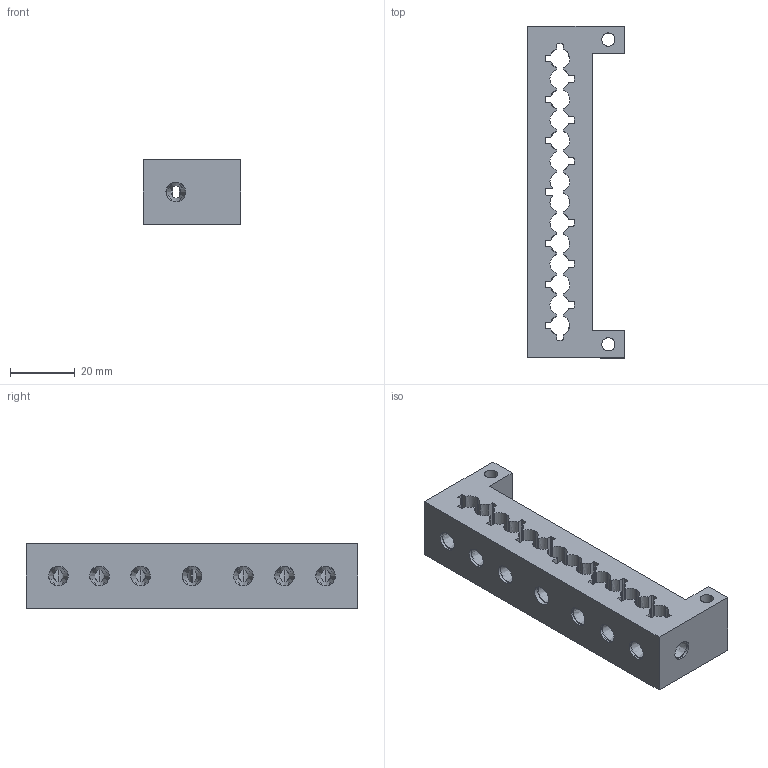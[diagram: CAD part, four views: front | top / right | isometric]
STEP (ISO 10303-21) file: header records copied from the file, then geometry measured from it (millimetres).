
FILE_DESCRIPTION ((), '1');
FILE_NAME ('C:\Users\tprototype\Desktop\TeslaGen Project\TeslaGen-v1 CAD Package\CNC Parts\Spark Gap\Insulator Block\Insulator_Block.stp', '2016-11-22T18:03:06', ('Unknown'), ('Unknown'), 'HarmonyWare STEP v1.7.11', 'HarmonyWare Translators', '');
FILE_SCHEMA (('CONFIG_CONTROL_DESIGN'));
Length unit declared in the file: millimetre
Products named in the file (1): product-name
Bounding box: 30 x 102.55 x 20 mm (x, y, z)
Volume: 32732.4 mm3; surface area: 16012.3 mm2
Topology: 1 solids, 1 shells, 334 faces, 1015 edges, 668 vertices
Faces by surface type: bspline 334
Entity records: 26457 total; most frequent: CARTESIAN_POINT 20614, ORIENTED_EDGE 2030, EDGE_CURVE 1015, B_SPLINE_CURVE_WITH_KNOTS 860, VERTEX_POINT 668, EDGE_LOOP 355, FACE_OUTER_BOUND 334, ADVANCED_FACE 334
